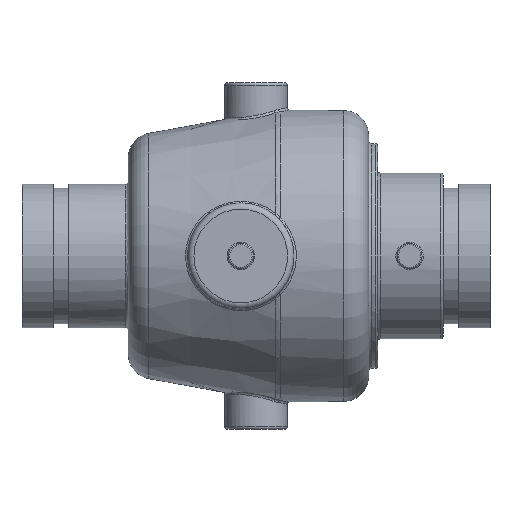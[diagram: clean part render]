
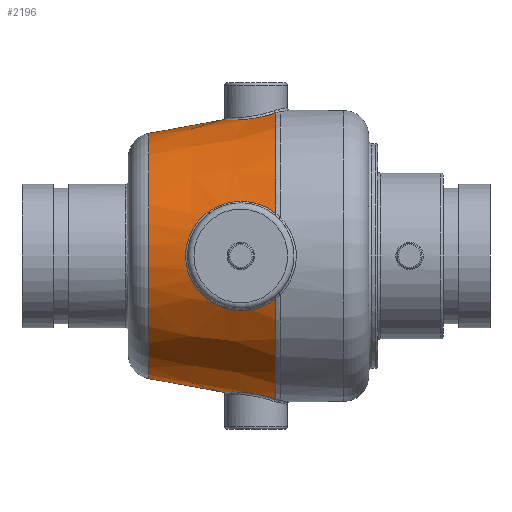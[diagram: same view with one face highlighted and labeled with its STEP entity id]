
A CAD part, front view. The second image highlights one B-rep face of the part: STEP entity #2196.
In plain terms, the highlighted conical face has half-angle 10 degrees and reference radius 74.196 mm.
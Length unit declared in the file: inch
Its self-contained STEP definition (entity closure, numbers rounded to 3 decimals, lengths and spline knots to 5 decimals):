
#51=CONICAL_SURFACE('',#2413,2.92112,0.175);
#204=LINE('',#4929,#285);
#207=LINE('',#4966,#288);
#285=VECTOR('',#2847,0.3937);
#288=VECTOR('',#2856,0.3937);
#388=FACE_OUTER_BOUND('',#522,.T.);
#522=EDGE_LOOP('',(#1575,#1576,#1577,#1578,#1579,#1580,#1581,#1582));
#684=CIRCLE('',#2414,2.91352);
#685=CIRCLE('',#2415,2.91352);
#686=CIRCLE('',#2416,2.46499);
#789=B_SPLINE_CURVE_WITH_KNOTS('',3,(#4725,#4726,#4727,#4728,#4729,#4730,
#4731,#4732,#4733,#4734),.UNSPECIFIED.,.F.,.F.,(4,1,1,1,1,1,1,4),(-4.41707,
-3.78606,-3.15505,-2.52404,-1.89303,
-1.26202,-0.63101,0.),.UNSPECIFIED.);
#798=B_SPLINE_CURVE_WITH_KNOTS('',3,(#4937,#4938,#4939,#4940,#4941,#4942,
#4943,#4944,#4945,#4946,#4947,#4948,#4949,#4950,#4951),.UNSPECIFIED.,.F.,
 .F.,(4,1,1,1,1,1,1,1,1,1,1,1,4),(-12.88864,-11.96802,-11.04741,
-10.12679,-9.20617,-7.36494,-6.13745,
-5.5237,-3.68247,-2.76185,-1.84123,
-0.92062,0.),.UNSPECIFIED.);
#799=B_SPLINE_CURVE_WITH_KNOTS('',3,(#4955,#4956,#4957,#4958,#4959,#4960,
#4961,#4962,#4963,#4964),.UNSPECIFIED.,.F.,.F.,(4,1,1,1,1,1,1,4),(-4.41708,
-3.78607,-3.47056,-2.52404,-1.89303,
-1.26202,-0.63101,0.),.UNSPECIFIED.);
#901=VERTEX_POINT('',#4722);
#902=VERTEX_POINT('',#4724);
#915=VERTEX_POINT('',#4928);
#917=VERTEX_POINT('',#4934);
#918=VERTEX_POINT('',#4936);
#919=VERTEX_POINT('',#4952);
#920=VERTEX_POINT('',#4954);
#921=VERTEX_POINT('',#4965);
#1133=EDGE_CURVE('',#901,#902,#789,.T.);
#1154=EDGE_CURVE('',#902,#915,#204,.T.);
#1157=EDGE_CURVE('',#917,#901,#684,.T.);
#1158=EDGE_CURVE('',#918,#917,#798,.T.);
#1159=EDGE_CURVE('',#919,#918,#685,.T.);
#1160=EDGE_CURVE('',#920,#919,#799,.T.);
#1161=EDGE_CURVE('',#920,#921,#207,.T.);
#1162=EDGE_CURVE('',#915,#921,#686,.T.);
#1575=ORIENTED_EDGE('',*,*,#1133,.F.);
#1576=ORIENTED_EDGE('',*,*,#1157,.F.);
#1577=ORIENTED_EDGE('',*,*,#1158,.F.);
#1578=ORIENTED_EDGE('',*,*,#1159,.F.);
#1579=ORIENTED_EDGE('',*,*,#1160,.F.);
#1580=ORIENTED_EDGE('',*,*,#1161,.T.);
#1581=ORIENTED_EDGE('',*,*,#1162,.F.);
#1582=ORIENTED_EDGE('',*,*,#1154,.F.);
#2196=ADVANCED_FACE('',(#388),#51,.T.);
#2413=AXIS2_PLACEMENT_3D('',#4933,#2850,#2851);
#2414=AXIS2_PLACEMENT_3D('',#4935,#2852,#2853);
#2415=AXIS2_PLACEMENT_3D('',#4953,#2854,#2855);
#2416=AXIS2_PLACEMENT_3D('',#4967,#2857,#2858);
#2847=DIRECTION('',(-0.985,-0.015,0.173));
#2850=DIRECTION('center_axis',(1.,0.,0.));
#2851=DIRECTION('ref_axis',(0.,-1.,0.));
#2852=DIRECTION('center_axis',(1.,0.,0.));
#2853=DIRECTION('ref_axis',(0.,-1.,0.));
#2854=DIRECTION('center_axis',(1.,0.,0.));
#2855=DIRECTION('ref_axis',(0.,-1.,0.));
#2856=DIRECTION('',(-0.985,-0.015,-0.173));
#2857=DIRECTION('center_axis',(-1.,0.,0.));
#2858=DIRECTION('ref_axis',(0.,-1.,0.));
#4722=CARTESIAN_POINT('',(5.08442,-0.54126,-2.8628));
#4724=CARTESIAN_POINT('',(4.06376,0.23824,-2.72315));
#4725=CARTESIAN_POINT('Ctrl Pts',(5.08442,-0.54126,-2.8628));
#4726=CARTESIAN_POINT('Ctrl Pts',(5.019,-0.58689,-2.84243));
#4727=CARTESIAN_POINT('Ctrl Pts',(4.87173,-0.65496,-2.80072));
#4728=CARTESIAN_POINT('Ctrl Pts',(4.62505,-0.67498,-2.75081));
#4729=CARTESIAN_POINT('Ctrl Pts',(4.38343,-0.60604,-2.72392));
#4730=CARTESIAN_POINT('Ctrl Pts',(4.18217,-0.45564,-2.7185));
#4731=CARTESIAN_POINT('Ctrl Pts',(4.04962,-0.24432,-2.72344));
#4732=CARTESIAN_POINT('Ctrl Pts',(4.00327,-0.00035,
-2.72668));
#4733=CARTESIAN_POINT('Ctrl Pts',(4.03401,0.16234,-2.72452));
#4734=CARTESIAN_POINT('Ctrl Pts',(4.06376,0.23824,-2.72315));
#4928=CARTESIAN_POINT('',(2.54068,0.21484,-2.45561));
#4929=CARTESIAN_POINT('',(5.1275,0.25459,-2.91));
#4933=CARTESIAN_POINT('Origin',(5.1275,0.,0.));
#4934=CARTESIAN_POINT('',(5.08442,-2.78565,-0.85368));
#4935=CARTESIAN_POINT('Origin',(5.08442,0.,0.));
#4936=CARTESIAN_POINT('',(5.08442,-2.78565,0.85368));
#4937=CARTESIAN_POINT('Ctrl Pts',(5.08442,-2.78565,0.85368));
#4938=CARTESIAN_POINT('Ctrl Pts',(4.99504,-2.7476,0.92404));
#4939=CARTESIAN_POINT('Ctrl Pts',(4.79481,-2.66938,1.03709));
#4940=CARTESIAN_POINT('Ctrl Pts',(4.44906,-2.57201,1.11055));
#4941=CARTESIAN_POINT('Ctrl Pts',(4.08693,-2.51906,1.07199));
#4942=CARTESIAN_POINT('Ctrl Pts',(3.6408,-2.51829,0.86978));
#4943=CARTESIAN_POINT('Ctrl Pts',(3.30961,-2.58589,0.44142));
#4944=CARTESIAN_POINT('Ctrl Pts',(3.25659,-2.59935,-0.04168));
#4945=CARTESIAN_POINT('Ctrl Pts',(3.36074,-2.57511,-0.50749));
#4946=CARTESIAN_POINT('Ctrl Pts',(3.64071,-2.5185,-0.86962));
#4947=CARTESIAN_POINT('Ctrl Pts',(4.08701,-2.51896,-1.07199));
#4948=CARTESIAN_POINT('Ctrl Pts',(4.44902,-2.57205,-1.11054));
#4949=CARTESIAN_POINT('Ctrl Pts',(4.79483,-2.66935,-1.03709));
#4950=CARTESIAN_POINT('Ctrl Pts',(4.99504,-2.7476,-0.92404));
#4951=CARTESIAN_POINT('Ctrl Pts',(5.08442,-2.78565,-0.85368));
#4952=CARTESIAN_POINT('',(5.08442,-0.54126,2.8628));
#4953=CARTESIAN_POINT('Origin',(5.08442,0.,0.));
#4954=CARTESIAN_POINT('',(4.06376,0.23824,2.72315));
#4955=CARTESIAN_POINT('Ctrl Pts',(4.06376,0.23824,2.72315));
#4956=CARTESIAN_POINT('Ctrl Pts',(4.03401,0.16234,2.72452));
#4957=CARTESIAN_POINT('Ctrl Pts',(4.01114,0.0404,2.72603));
#4958=CARTESIAN_POINT('Ctrl Pts',(4.03386,-0.20378,2.72473));
#4959=CARTESIAN_POINT('Ctrl Pts',(4.14836,-0.43066,2.71775));
#4960=CARTESIAN_POINT('Ctrl Pts',(4.38351,-0.60601,2.72387));
#4961=CARTESIAN_POINT('Ctrl Pts',(4.62499,-0.675,2.75084));
#4962=CARTESIAN_POINT('Ctrl Pts',(4.87174,-0.65495,2.80071));
#4963=CARTESIAN_POINT('Ctrl Pts',(5.019,-0.58689,2.84243));
#4964=CARTESIAN_POINT('Ctrl Pts',(5.08442,-0.54126,2.8628));
#4965=CARTESIAN_POINT('',(2.54068,0.21484,2.45561));
#4966=CARTESIAN_POINT('',(5.1275,0.25459,2.91));
#4967=CARTESIAN_POINT('Origin',(2.54068,0.,0.));
